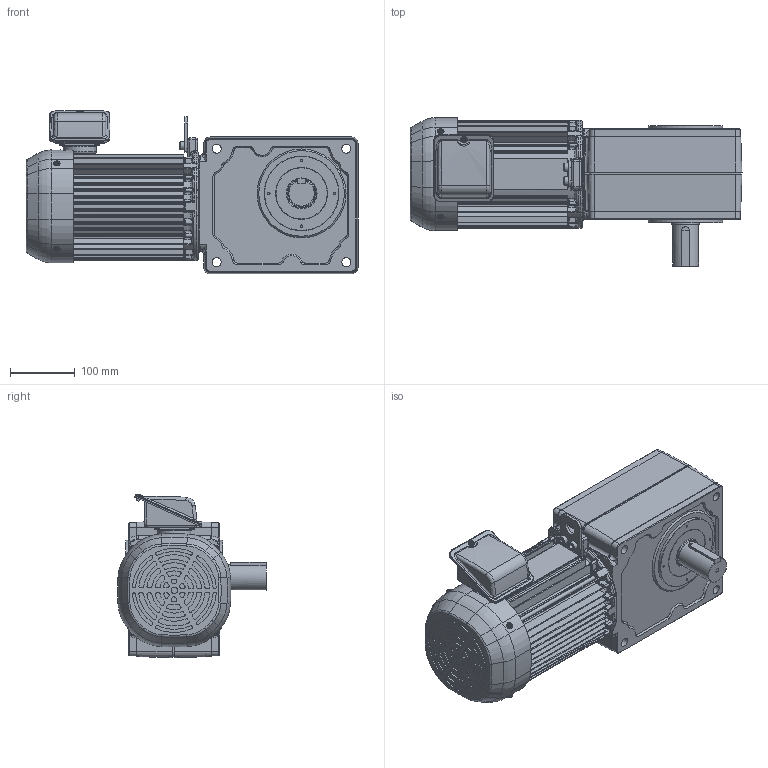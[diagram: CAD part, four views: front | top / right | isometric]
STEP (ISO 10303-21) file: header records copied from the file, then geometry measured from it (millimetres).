
FILE_DESCRIPTION( ( 'Unknown' ), '1' );
FILE_NAME( 'X:/gear/gm/3D-WEB/IE3/SHYP/ﾊﾟｰﾂ/完成品/shypmrr_15_5-60.stp', 'Unknown', ( 'Unknown' ), ( 'Unknown' ), 'PSStep 14.0', 'Unknown', ' ' );
FILE_SCHEMA( ( 'AUTOMOTIVE_DESIGN { 1 0 10303 214 1 1 1 1 }' ) );
Length unit declared in the file: millimetre
Products named in the file (2): 六角穴付ボルト(M10X16)
Bounding box: 512 x 229.24 x 252.35 mm (x, y, z)
Volume: 12016852.9 mm3; surface area: 836312.3 mm2
Topology: 2 solids, 29 shells, 2163 faces, 5290 edges, 3250 vertices
Faces by surface type: cylinder 819, plane 772, bspline 227, torus 206, cone 123, sphere 16
Full cylindrical faces by diameter (mm): 2 x4, 3.6 x8, 3.8 x6, 4.2 x8, 4.8 x1, 4.917 x9, 5.5 x4, 5.6 x1, 5.8 x4, 6 x12, 6.2 x1, 6.647 x2, 7 x5, 8 x4, 10 x18, 11 x10, 13 x2, 13.835 x4, 16 x6, 17 x6, 20 x1, 23 x1, 25 x3, 26.3 x1, 28.6 x1, 40 x1, 42 x1, 42.1 x1, 45 x2, 48 x2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
Entity records: 120851 total; most frequent: CARTESIAN_POINT 54274, DIRECTION 10652, ORIENTED_EDGE 9880, EDGE_CURVE 4940, AXIS2_PLACEMENT_3D 4254, VERTEX_POINT 3184, EDGE_LOOP 2535, FACE_OUTER_BOUND 2333
